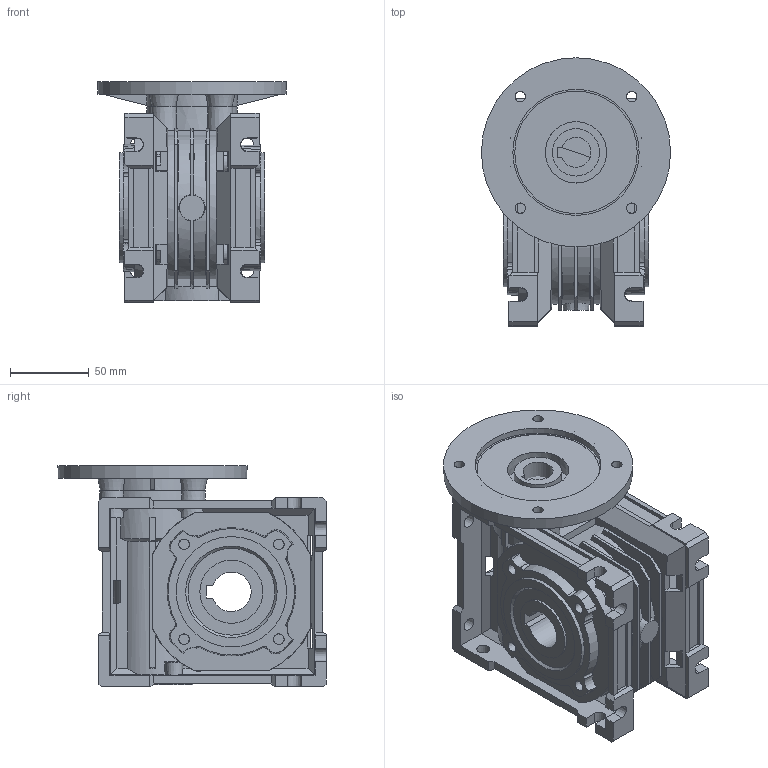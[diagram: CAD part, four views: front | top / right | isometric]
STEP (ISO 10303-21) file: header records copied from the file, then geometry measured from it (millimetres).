
FILE_DESCRIPTION( ( 'Unknown' ), '1' );
FILE_NAME( 'E:/services/configuratordownloads/customers/transtecno/cm/download/17A49183AFB348A73787EBDE2666B498/STEP/17A49183AFB348A73787EBDE2666B498.3d.stp', 'Unknown', ( 'Unknown' ), ( 'Unknown' ), 'PSStep 10.1', 'Unknown', ' ' );
FILE_SCHEMA( ( 'AUTOMOTIVE_DESIGN { 1 0 10303 214 1 1 1 1 }' ) );
Length unit declared in the file: millimetre
Products named in the file (1): caae98c1-bc02-451e-944f-2dbd11192a80
Bounding box: 119.95 x 169.97 x 140 mm (x, y, z)
Volume: 982961.7 mm3; surface area: 182293.8 mm2
Topology: 1 solids, 6 shells, 698 faces, 1963 edges, 1296 vertices
Faces by surface type: plane 510, cone 146, bspline 24, cylinder 18
Full cylindrical faces by diameter (mm): 30 x2, 40 x2, 47 x1, 55.1 x1, 70 x2, 80 x1
Entity records: 29825 total; most frequent: CARTESIAN_POINT 6768, ORIENTED_EDGE 3790, DIRECTION 3358, EDGE_CURVE 1895, VERTEX_POINT 1272, LINE 1176, VECTOR 1176, AXIS2_PLACEMENT_3D 1091
